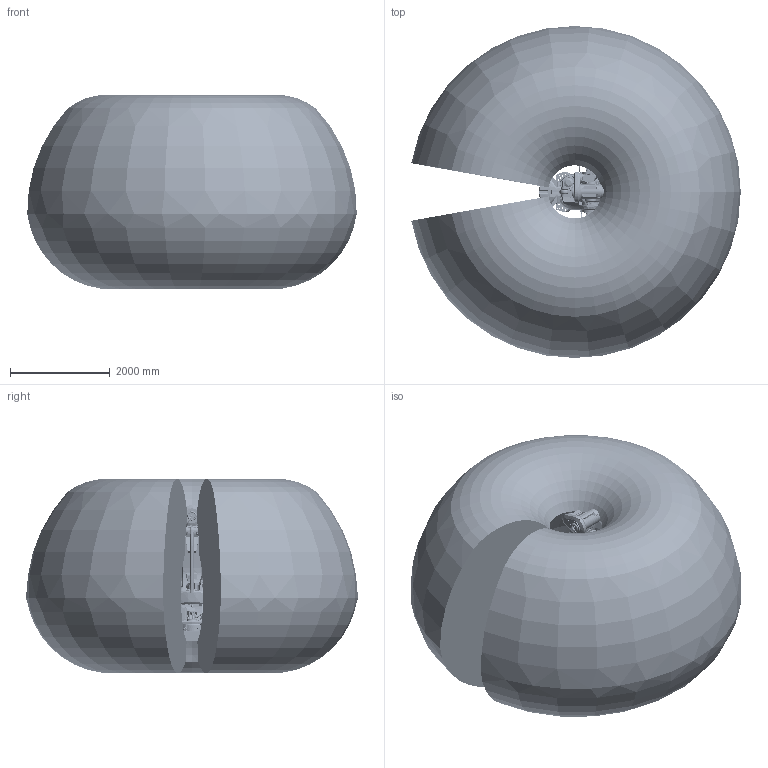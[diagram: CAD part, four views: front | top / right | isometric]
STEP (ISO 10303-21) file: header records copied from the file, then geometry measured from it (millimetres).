
FILE_DESCRIPTION (( 'STEP AP214' ), '1' );
FILE_NAME ('IRB7710_360kg-330_OC_00_ASM_CAD.STEP', '2024-02-15T06:56:02', ( '' ), ( '' ), 'SwSTEP 2.0', 'SolidWorks 2022', '' );
FILE_SCHEMA (( 'AUTOMOTIVE_DESIGN' ));
Length unit declared in the file: millimetre
Products named in the file (16): IRB77X0_All-330_OC_00_LINK06_CAD; IRB7710_All_OC_00_LINK03_CAD; IRB77X0_All-330_OC_00_Working-space; IRB7710_All_OC_00_LINKARM_CAD; IRB77X0_All_OC_00_CYL_CAD; IRB7710_All_OC_00_BASE_CAD; IRB77X0_All_OC_00_LINK02m_CABLE; IRB77X0_All-330_OC_00_LINK04_CAD; IRB77X0_All_OC_00_LINK01_CAD; IRB7710_All_OC_00_LINK03m_CABLE; IRB77X0_All_OC_00_LINK02_CAD; IRB77X0_All-330_OC_00_LINK05_CAD; IRB77X0_All_OC_00_LINKBAR_CAD; IRB77X0_All_OC_00_ROD_CAD; IRB7710_360kg-330_OC_00_ASM_CAD; IRB77X0_All_OC_00_LINK01m_CABLE
Assembly tree (15 placements, depth 2):
  IRB7710_360kg-330_OC_00_ASM_CAD
    IRB7710_All_OC_00_BASE_CAD
    IRB77X0_All_OC_00_LINK01_CAD
    IRB77X0_All_OC_00_LINK02_CAD
    IRB7710_All_OC_00_LINKARM_CAD
    IRB77X0_All_OC_00_ROD_CAD
    IRB77X0_All_OC_00_CYL_CAD
    IRB7710_All_OC_00_LINK03_CAD
    IRB77X0_All_OC_00_LINKBAR_CAD
    IRB77X0_All-330_OC_00_LINK04_CAD
    IRB77X0_All-330_OC_00_LINK05_CAD
    IRB77X0_All-330_OC_00_LINK06_CAD
    IRB7710_All_OC_00_LINK03m_CABLE
    IRB77X0_All_OC_00_LINK02m_CABLE
    IRB77X0_All_OC_00_LINK01m_CABLE
    IRB77X0_All-330_OC_00_Working-space
Bounding box: 6596.2 x 6646.69 x 3895.16 mm (x, y, z)
Volume: 91999018947.1 mm3; surface area: 161998009 mm2
Topology: 16 solids, 18 shells, 8612 faces, 21676 edges, 13819 vertices
Faces by surface type: plane 3688, cylinder 2197, cone 1688, bspline 735, torus 263, sphere 41
Entity records: 425391 total; most frequent: CARTESIAN_POINT 215637, ORIENTED_EDGE 43036, DIRECTION 39457, EDGE_CURVE 21518, AXIS2_PLACEMENT_3D 14826, VERTEX_POINT 13821, LINE 9805, VECTOR 9805
